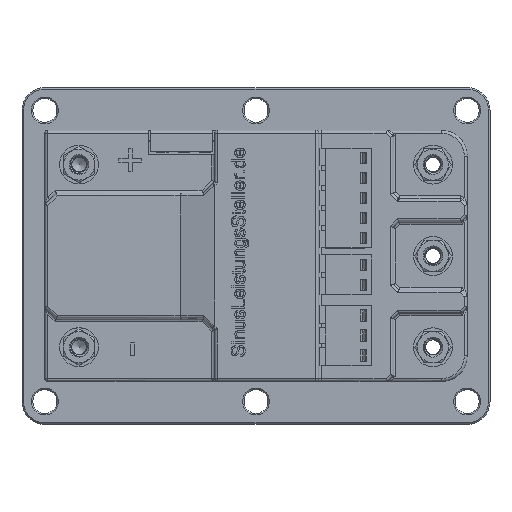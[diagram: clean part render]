
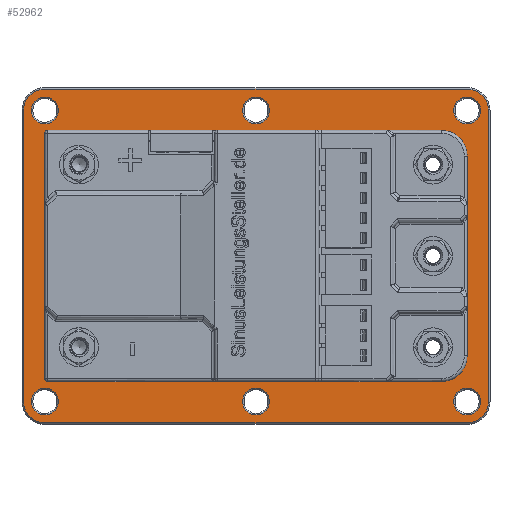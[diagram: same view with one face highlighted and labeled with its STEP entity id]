
A CAD part, top view. The second image highlights one B-rep face of the part: STEP entity #52962.
In plain terms, the highlighted planar face has unit normal (0, 0, 1).
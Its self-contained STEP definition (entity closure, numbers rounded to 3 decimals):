
#4678=VECTOR('',#84979,1.);
#4681=VECTOR('',#84983,1.);
#4685=VECTOR('',#84998,1.);
#4688=VECTOR('',#85002,1.);
#4690=VECTOR('',#85019,1.);
#4691=VECTOR('',#85022,1.);
#4692=VECTOR('',#85025,1.);
#4693=VECTOR('',#85028,1.);
#10271=LINE('',#59471,#4678);
#10274=LINE('',#59477,#4681);
#10278=LINE('',#59491,#4685);
#10281=LINE('',#59496,#4688);
#10283=LINE('',#59511,#4690);
#10284=LINE('',#59515,#4691);
#10285=LINE('',#59519,#4692);
#10286=LINE('',#59523,#4693);
#15846=PLANE('',#55883);
#17722=VERTEX_POINT('',#59462);
#17723=VERTEX_POINT('',#59464);
#17725=VERTEX_POINT('',#59470);
#17726=VERTEX_POINT('',#59474);
#17728=VERTEX_POINT('',#59480);
#17729=VERTEX_POINT('',#59484);
#17731=VERTEX_POINT('',#59490);
#17732=VERTEX_POINT('',#59494);
#17733=VERTEX_POINT('',#59503);
#17734=VERTEX_POINT('',#59505);
#17735=VERTEX_POINT('',#59507);
#17736=VERTEX_POINT('',#59509);
#17737=VERTEX_POINT('',#59510);
#17738=VERTEX_POINT('',#59512);
#17739=VERTEX_POINT('',#59514);
#17740=VERTEX_POINT('',#59516);
#17741=VERTEX_POINT('',#59518);
#17742=VERTEX_POINT('',#59520);
#17743=VERTEX_POINT('',#59522);
#17744=VERTEX_POINT('',#59525);
#17745=VERTEX_POINT('',#59527);
#17746=VERTEX_POINT('',#59529);
#22720=CIRCLE('',#55869,3.75);
#22722=CIRCLE('',#55874,3.75);
#22724=CIRCLE('',#55877,3.75);
#22725=CIRCLE('',#55881,3.75);
#22726=CIRCLE('',#55884,2.35);
#22727=CIRCLE('',#55885,2.35);
#22728=CIRCLE('',#55886,2.35);
#22729=CIRCLE('',#55887,4.25);
#22730=CIRCLE('',#55888,4.25);
#22731=CIRCLE('',#55889,2.25);
#22732=CIRCLE('',#55890,2.25);
#22733=CIRCLE('',#55891,2.35);
#22734=CIRCLE('',#55892,2.35);
#22735=CIRCLE('',#55893,2.35);
#23626=EDGE_CURVE('',#17722,#17723,#22720,.T.);
#23630=EDGE_CURVE('',#17725,#17722,#10271,.T.);
#23633=EDGE_CURVE('',#17723,#17726,#10274,.T.);
#23635=EDGE_CURVE('',#17728,#17725,#22722,.T.);
#23638=EDGE_CURVE('',#17726,#17729,#22724,.T.);
#23640=EDGE_CURVE('',#17731,#17728,#10278,.T.);
#23643=EDGE_CURVE('',#17729,#17732,#10281,.T.);
#23644=EDGE_CURVE('',#17732,#17731,#22725,.T.);
#23646=EDGE_CURVE('',#17733,#17733,#22726,.T.);
#23647=EDGE_CURVE('',#17734,#17734,#22727,.T.);
#23648=EDGE_CURVE('',#17735,#17735,#22728,.T.);
#23649=EDGE_CURVE('',#17736,#17737,#22729,.T.);
#23650=EDGE_CURVE('',#17738,#17736,#10283,.T.);
#23651=EDGE_CURVE('',#17739,#17738,#22730,.T.);
#23652=EDGE_CURVE('',#17740,#17739,#10284,.T.);
#23653=EDGE_CURVE('',#17741,#17740,#22731,.T.);
#23654=EDGE_CURVE('',#17742,#17741,#10285,.T.);
#23655=EDGE_CURVE('',#17743,#17742,#22732,.T.);
#23656=EDGE_CURVE('',#17737,#17743,#10286,.T.);
#23657=EDGE_CURVE('',#17744,#17744,#22733,.T.);
#23658=EDGE_CURVE('',#17745,#17745,#22734,.T.);
#23659=EDGE_CURVE('',#17746,#17746,#22735,.T.);
#31282=ORIENTED_EDGE('',*,*,#23646,.F.);
#31283=ORIENTED_EDGE('',*,*,#23647,.F.);
#31284=ORIENTED_EDGE('',*,*,#23648,.F.);
#31285=ORIENTED_EDGE('',*,*,#23649,.F.);
#31286=ORIENTED_EDGE('',*,*,#23650,.F.);
#31287=ORIENTED_EDGE('',*,*,#23651,.F.);
#31288=ORIENTED_EDGE('',*,*,#23652,.F.);
#31289=ORIENTED_EDGE('',*,*,#23653,.F.);
#31290=ORIENTED_EDGE('',*,*,#23654,.F.);
#31291=ORIENTED_EDGE('',*,*,#23655,.F.);
#31292=ORIENTED_EDGE('',*,*,#23656,.F.);
#31293=ORIENTED_EDGE('',*,*,#23657,.F.);
#31294=ORIENTED_EDGE('',*,*,#23658,.F.);
#31295=ORIENTED_EDGE('',*,*,#23659,.F.);
#31296=ORIENTED_EDGE('',*,*,#23626,.F.);
#31297=ORIENTED_EDGE('',*,*,#23630,.F.);
#31298=ORIENTED_EDGE('',*,*,#23635,.F.);
#31299=ORIENTED_EDGE('',*,*,#23640,.F.);
#31300=ORIENTED_EDGE('',*,*,#23644,.F.);
#31301=ORIENTED_EDGE('',*,*,#23643,.F.);
#31302=ORIENTED_EDGE('',*,*,#23638,.F.);
#31303=ORIENTED_EDGE('',*,*,#23633,.F.);
#46361=EDGE_LOOP('',(#31282));
#46362=EDGE_LOOP('',(#31283));
#46363=EDGE_LOOP('',(#31284));
#46364=EDGE_LOOP('',(#31285,#31286,#31287,#31288,#31289,#31290,#31291,#31292));
#46365=EDGE_LOOP('',(#31293));
#46366=EDGE_LOOP('',(#31294));
#46367=EDGE_LOOP('',(#31295));
#46368=EDGE_LOOP('',(#31296,#31297,#31298,#31299,#31300,#31301,#31302,#31303));
#49679=FACE_BOUND('',#46361,.T.);
#49680=FACE_BOUND('',#46362,.T.);
#49681=FACE_BOUND('',#46363,.T.);
#49682=FACE_BOUND('',#46364,.T.);
#49683=FACE_BOUND('',#46365,.T.);
#49684=FACE_BOUND('',#46366,.T.);
#49685=FACE_BOUND('',#46367,.T.);
#49686=FACE_BOUND('',#46368,.T.);
#52962=ADVANCED_FACE('',(#49679,#49680,#49681,#49682,#49683,#49684,#49685,
#49686),#15846,.T.);
#55869=AXIS2_PLACEMENT_3D('',#59463,#84972,#84973);
#55874=AXIS2_PLACEMENT_3D('',#59481,#84987,#84988);
#55877=AXIS2_PLACEMENT_3D('',#59487,#84994,#84995);
#55881=AXIS2_PLACEMENT_3D('',#59498,#85005,#85006);
#55883=AXIS2_PLACEMENT_3D('',#59501,#85010,$);
#55884=AXIS2_PLACEMENT_3D('',#59502,#85011,#85012);
#55885=AXIS2_PLACEMENT_3D('',#59504,#85013,#85014);
#55886=AXIS2_PLACEMENT_3D('',#59506,#85015,#85016);
#55887=AXIS2_PLACEMENT_3D('',#59508,#85017,#85018);
#55888=AXIS2_PLACEMENT_3D('',#59513,#85020,#85021);
#55889=AXIS2_PLACEMENT_3D('',#59517,#85023,#85024);
#55890=AXIS2_PLACEMENT_3D('',#59521,#85026,#85027);
#55891=AXIS2_PLACEMENT_3D('',#59524,#85029,#85030);
#55892=AXIS2_PLACEMENT_3D('',#59526,#85031,#85032);
#55893=AXIS2_PLACEMENT_3D('',#59528,#85033,#85034);
#59462=CARTESIAN_POINT('',(-40.75,25.5,4.5));
#59463=CARTESIAN_POINT('',(-37.,25.5,4.5));
#59464=CARTESIAN_POINT('',(-37.,29.25,4.5));
#59470=CARTESIAN_POINT('',(-40.75,-25.5,4.5));
#59471=CARTESIAN_POINT('',(-40.75,0.,4.5));
#59474=CARTESIAN_POINT('',(37.,29.25,4.5));
#59477=CARTESIAN_POINT('',(0.,29.25,4.5));
#59480=CARTESIAN_POINT('',(-37.,-29.25,4.5));
#59481=CARTESIAN_POINT('',(-37.,-25.5,4.5));
#59484=CARTESIAN_POINT('',(40.75,25.5,4.5));
#59487=CARTESIAN_POINT('',(37.,25.5,4.5));
#59490=CARTESIAN_POINT('',(37.,-29.25,4.5));
#59491=CARTESIAN_POINT('',(0.,-29.25,4.5));
#59494=CARTESIAN_POINT('',(40.75,-25.5,4.5));
#59496=CARTESIAN_POINT('',(40.75,0.,4.5));
#59498=CARTESIAN_POINT('',(37.,-25.5,4.5));
#59501=CARTESIAN_POINT('',(0.,0.,
4.5));
#59502=CARTESIAN_POINT('',(-37.,25.5,4.5));
#59503=CARTESIAN_POINT('',(-34.65,25.5,4.5));
#59504=CARTESIAN_POINT('',(0.,-25.5,4.5));
#59505=CARTESIAN_POINT('',(2.35,-25.5,4.5));
#59506=CARTESIAN_POINT('',(-37.,-25.5,4.5));
#59507=CARTESIAN_POINT('',(-34.65,-25.5,4.5));
#59508=CARTESIAN_POINT('',(32.,16.5,4.5));
#59509=CARTESIAN_POINT('',(36.25,16.5,4.5));
#59510=CARTESIAN_POINT('',(32.,20.75,4.5));
#59511=CARTESIAN_POINT('',(36.25,0.,4.5));
#59512=CARTESIAN_POINT('',(36.25,-16.5,4.5));
#59513=CARTESIAN_POINT('',(32.,-16.5,4.5));
#59514=CARTESIAN_POINT('',(32.,-20.75,4.5));
#59515=CARTESIAN_POINT('',(-0.5,-20.75,4.5));
#59516=CARTESIAN_POINT('',(-34.,-20.75,4.5));
#59517=CARTESIAN_POINT('',(-34.,-18.5,4.5));
#59518=CARTESIAN_POINT('',(-36.25,-18.5,4.5));
#59519=CARTESIAN_POINT('',(-36.25,0.,4.5));
#59520=CARTESIAN_POINT('',(-36.25,18.5,4.5));
#59521=CARTESIAN_POINT('',(-34.,18.5,4.5));
#59522=CARTESIAN_POINT('',(-34.,20.75,4.5));
#59523=CARTESIAN_POINT('',(-0.5,20.75,4.5));
#59524=CARTESIAN_POINT('',(37.,25.5,4.5));
#59525=CARTESIAN_POINT('',(39.35,25.5,4.5));
#59526=CARTESIAN_POINT('',(0.,25.5,4.5));
#59527=CARTESIAN_POINT('',(2.35,25.5,4.5));
#59528=CARTESIAN_POINT('',(37.,-25.5,4.5));
#59529=CARTESIAN_POINT('',(39.35,-25.5,4.5));
#84972=DIRECTION('',(0.,0.,-1.));
#84973=DIRECTION('',(-2.652,2.652,0.));
#84979=DIRECTION('',(0.,1.,0.));
#84983=DIRECTION('',(1.,0.,0.));
#84987=DIRECTION('',(0.,0.,-1.));
#84988=DIRECTION('',(-2.652,-2.652,0.));
#84994=DIRECTION('',(0.,0.,-1.));
#84995=DIRECTION('',(2.652,2.652,0.));
#84998=DIRECTION('',(-1.,0.,0.));
#85002=DIRECTION('',(0.,-1.,0.));
#85005=DIRECTION('',(0.,0.,-1.));
#85006=DIRECTION('',(2.652,-2.652,0.));
#85010=DIRECTION('',(0.,0.,1.));
#85011=DIRECTION('',(0.,0.,1.));
#85012=DIRECTION('',(-2.35,0.,0.));
#85013=DIRECTION('',(0.,0.,1.));
#85014=DIRECTION('',(-2.35,0.,0.));
#85015=DIRECTION('',(0.,0.,1.));
#85016=DIRECTION('',(-2.35,0.,0.));
#85017=DIRECTION('',(0.,0.,1.));
#85018=DIRECTION('',(3.005,3.005,0.));
#85019=DIRECTION('',(0.,1.,0.));
#85020=DIRECTION('',(0.,0.,1.));
#85021=DIRECTION('',(3.005,-3.005,0.));
#85022=DIRECTION('',(1.,0.,0.));
#85023=DIRECTION('',(0.,0.,1.));
#85024=DIRECTION('',(-1.591,-1.591,0.));
#85025=DIRECTION('',(0.,-1.,0.));
#85026=DIRECTION('',(0.,0.,1.));
#85027=DIRECTION('',(-1.591,1.591,0.));
#85028=DIRECTION('',(-1.,0.,0.));
#85029=DIRECTION('',(0.,0.,1.));
#85030=DIRECTION('',(-2.35,0.,0.));
#85031=DIRECTION('',(0.,0.,1.));
#85032=DIRECTION('',(-2.35,0.,0.));
#85033=DIRECTION('',(0.,0.,1.));
#85034=DIRECTION('',(-2.35,0.,0.));
